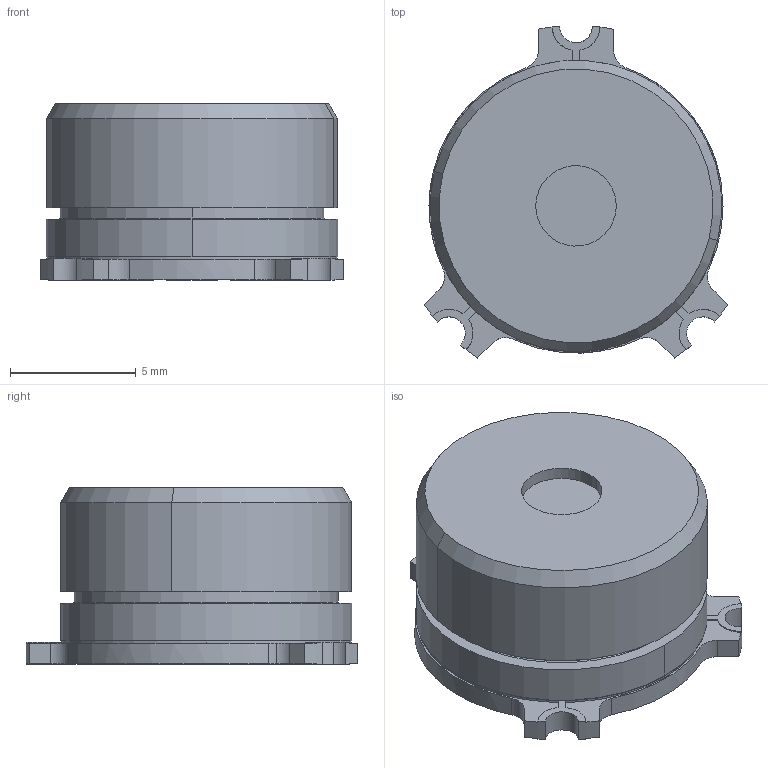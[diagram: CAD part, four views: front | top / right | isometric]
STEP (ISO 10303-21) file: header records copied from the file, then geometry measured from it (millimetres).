
FILE_DESCRIPTION (( 'STEP AP214' ), '1' );
FILE_NAME ('MP7227.STEP', '2020-02-11T11:32:14', ( '' ), ( '' ), 'SwSTEP 2.0', 'SolidWorks 2017', '' );
FILE_SCHEMA (( 'AUTOMOTIVE_DESIGN' ));
Length unit declared in the file: millimetre
Products named in the file (1): MP7227
Bounding box: 12.08 x 13.21 x 7.03 mm (x, y, z)
Surface area: 820.8 mm2 (no closed solid volume)
Topology: 0 solids, 5 shells, 93 faces, 347 edges, 248 vertices
Faces by surface type: cylinder 49, plane 40, cone 2, torus 2
Entity records: 5125 total; most frequent: CARTESIAN_POINT 1306, ORIENTED_EDGE 580, DIRECTION 495, EDGE_CURVE 347, VERTEX_POINT 248, VECTOR 225, LINE 225, AXIS2_PLACEMENT_3D 135
